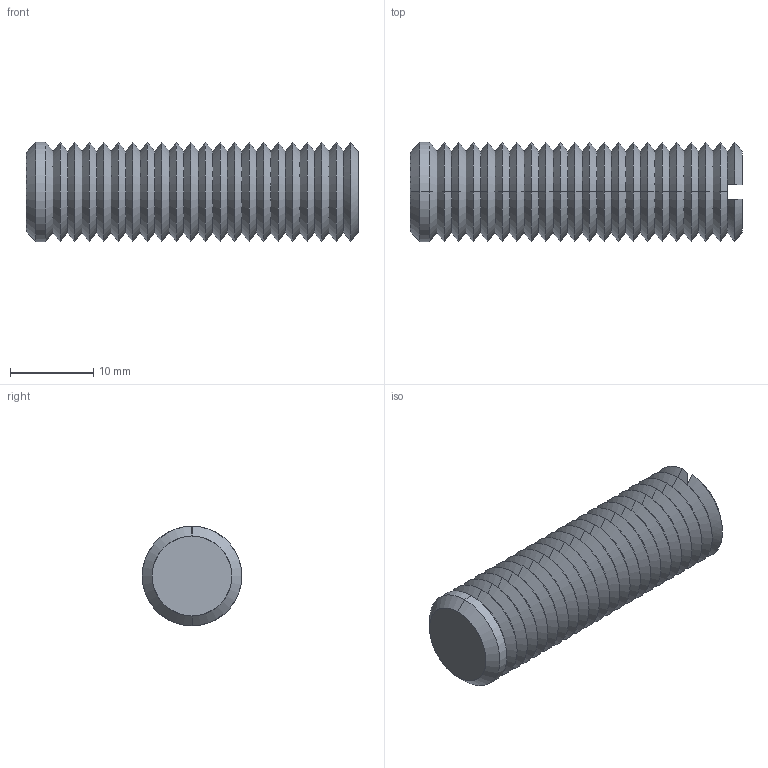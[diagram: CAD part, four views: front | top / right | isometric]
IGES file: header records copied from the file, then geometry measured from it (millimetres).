
Start section: SolidWorks IGES file using analytic representation for surfaces
Global section: file name: C:\Documents and Settings\IANO\Desktop\Temp File\Process pending\EXISTING\34300_v2\34300_v2_20170622_IGES\34300.W0122.igs; native system: SolidWorks 2009; preprocessor: SolidWorks 2009; author: IANO; date: 170622.094157; units: millimetre
Bounding box: 40 x 12 x 12 mm (x, y, z)
Surface area: 2340.5 mm2 (no closed solid volume)
Topology: 0 solids, 0 shells, 96 faces, 448 edges, 448 vertices
Faces by surface type: revolution 90, bspline 6
